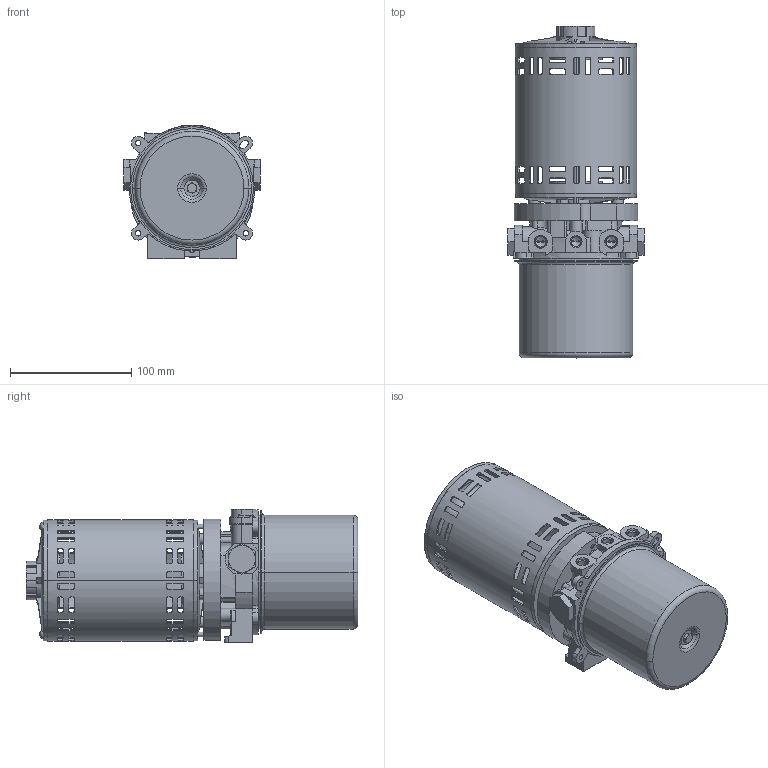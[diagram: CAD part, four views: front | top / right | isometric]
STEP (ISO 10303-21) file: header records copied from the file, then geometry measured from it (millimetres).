
FILE_DESCRIPTION((''),'2;1');
FILE_NAME('108-HA-HD-A_ASM_ASM','2013-01-11T',('da10877'),('OILDYNE'),'PRO/ENGINEER BY PARAMETRIC TECHNOLOGY CORPORATION, 2011490','PRO/ENGINEER BY PARAMETRIC TECHNOLOGY CORPORATION, 2011490','');
FILE_SCHEMA(('CONFIG_CONTROL_DESIGN'));
Length unit declared in the file: inch
Products named in the file (2): _108-HA-HD-A_ASM; 108-HA-HD-A_ASM_ASM
Assembly tree (1 placements, depth 2):
  108-HA-HD-A_ASM_ASM
    _108-HA-HD-A_ASM
Bounding box: 113.03 x 273.93 x 109.98 mm (x, y, z)
Volume: 151566.1 mm3; surface area: 259106.9 mm2
Topology: 8 solids, 12 shells, 1301 faces, 3608 edges, 2341 vertices
Faces by surface type: plane 617, cylinder 537, cone 98, torus 44, sphere 4, bspline 1
Entity records: 44278 total; most frequent: CARTESIAN_POINT 11098, ORIENTED_EDGE 7128, DIRECTION 6622, EDGE_CURVE 3580, AXIS2_PLACEMENT_3D 2382, VERTEX_POINT 2333, VECTOR 1858, LINE 1858
